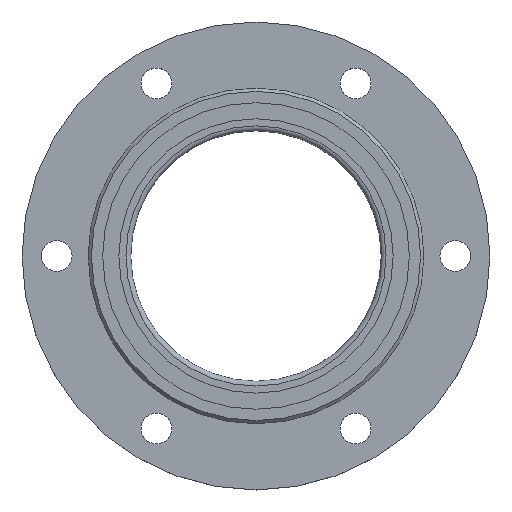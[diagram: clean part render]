
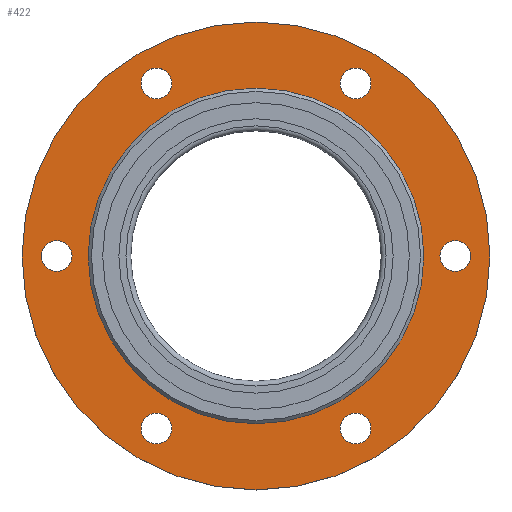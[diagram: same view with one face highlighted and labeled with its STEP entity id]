
A CAD part, top view. The second image highlights one B-rep face of the part: STEP entity #422.
In plain terms, the highlighted planar face has unit normal (0, 0, 1).
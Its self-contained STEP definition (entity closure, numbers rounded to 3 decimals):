
#22=FACE_BOUND('',#78,.T.);
#23=FACE_BOUND('',#79,.T.);
#24=FACE_BOUND('',#80,.T.);
#25=FACE_BOUND('',#81,.T.);
#26=FACE_BOUND('',#82,.T.);
#27=FACE_BOUND('',#83,.T.);
#28=FACE_BOUND('',#84,.T.);
#40=PLANE('',#490);
#54=FACE_OUTER_BOUND('',#77,.T.);
#77=EDGE_LOOP('',(#331,#332));
#78=EDGE_LOOP('',(#333,#334));
#79=EDGE_LOOP('',(#335,#336));
#80=EDGE_LOOP('',(#337,#338));
#81=EDGE_LOOP('',(#339,#340));
#82=EDGE_LOOP('',(#341,#342));
#83=EDGE_LOOP('',(#343,#344));
#84=EDGE_LOOP('',(#345,#346));
#139=CIRCLE('',#467,9.5);
#140=CIRCLE('',#468,9.5);
#142=CIRCLE('',#471,9.5);
#143=CIRCLE('',#472,9.5);
#145=CIRCLE('',#475,9.5);
#146=CIRCLE('',#476,9.5);
#148=CIRCLE('',#479,9.5);
#149=CIRCLE('',#480,9.5);
#151=CIRCLE('',#483,9.5);
#152=CIRCLE('',#484,9.5);
#154=CIRCLE('',#487,9.5);
#155=CIRCLE('',#488,9.5);
#157=CIRCLE('',#491,145.);
#158=CIRCLE('',#492,145.);
#159=CIRCLE('',#493,104.);
#160=CIRCLE('',#494,104.);
#186=VERTEX_POINT('',#698);
#187=VERTEX_POINT('',#699);
#189=VERTEX_POINT('',#706);
#190=VERTEX_POINT('',#707);
#192=VERTEX_POINT('',#714);
#193=VERTEX_POINT('',#715);
#195=VERTEX_POINT('',#722);
#196=VERTEX_POINT('',#723);
#198=VERTEX_POINT('',#730);
#199=VERTEX_POINT('',#731);
#201=VERTEX_POINT('',#738);
#202=VERTEX_POINT('',#739);
#204=VERTEX_POINT('',#746);
#205=VERTEX_POINT('',#747);
#206=VERTEX_POINT('',#750);
#207=VERTEX_POINT('',#751);
#233=EDGE_CURVE('',#186,#187,#139,.T.);
#234=EDGE_CURVE('',#187,#186,#140,.T.);
#237=EDGE_CURVE('',#189,#190,#142,.T.);
#238=EDGE_CURVE('',#190,#189,#143,.T.);
#241=EDGE_CURVE('',#192,#193,#145,.T.);
#242=EDGE_CURVE('',#193,#192,#146,.T.);
#245=EDGE_CURVE('',#195,#196,#148,.T.);
#246=EDGE_CURVE('',#196,#195,#149,.T.);
#249=EDGE_CURVE('',#198,#199,#151,.T.);
#250=EDGE_CURVE('',#199,#198,#152,.T.);
#253=EDGE_CURVE('',#201,#202,#154,.T.);
#254=EDGE_CURVE('',#202,#201,#155,.T.);
#257=EDGE_CURVE('',#204,#205,#157,.T.);
#258=EDGE_CURVE('',#205,#204,#158,.T.);
#259=EDGE_CURVE('',#206,#207,#159,.T.);
#260=EDGE_CURVE('',#207,#206,#160,.T.);
#331=ORIENTED_EDGE('',*,*,#257,.F.);
#332=ORIENTED_EDGE('',*,*,#258,.F.);
#333=ORIENTED_EDGE('',*,*,#233,.T.);
#334=ORIENTED_EDGE('',*,*,#234,.T.);
#335=ORIENTED_EDGE('',*,*,#237,.T.);
#336=ORIENTED_EDGE('',*,*,#238,.T.);
#337=ORIENTED_EDGE('',*,*,#241,.T.);
#338=ORIENTED_EDGE('',*,*,#242,.T.);
#339=ORIENTED_EDGE('',*,*,#245,.T.);
#340=ORIENTED_EDGE('',*,*,#246,.T.);
#341=ORIENTED_EDGE('',*,*,#249,.T.);
#342=ORIENTED_EDGE('',*,*,#250,.T.);
#343=ORIENTED_EDGE('',*,*,#253,.T.);
#344=ORIENTED_EDGE('',*,*,#254,.T.);
#345=ORIENTED_EDGE('',*,*,#259,.T.);
#346=ORIENTED_EDGE('',*,*,#260,.T.);
#422=ADVANCED_FACE('',(#54,#22,#23,#24,#25,#26,#27,#28),#40,.F.);
#467=AXIS2_PLACEMENT_3D('',#700,#553,#554);
#468=AXIS2_PLACEMENT_3D('',#701,#555,#556);
#471=AXIS2_PLACEMENT_3D('',#708,#562,#563);
#472=AXIS2_PLACEMENT_3D('',#709,#564,#565);
#475=AXIS2_PLACEMENT_3D('',#716,#571,#572);
#476=AXIS2_PLACEMENT_3D('',#717,#573,#574);
#479=AXIS2_PLACEMENT_3D('',#724,#580,#581);
#480=AXIS2_PLACEMENT_3D('',#725,#582,#583);
#483=AXIS2_PLACEMENT_3D('',#732,#589,#590);
#484=AXIS2_PLACEMENT_3D('',#733,#591,#592);
#487=AXIS2_PLACEMENT_3D('',#740,#598,#599);
#488=AXIS2_PLACEMENT_3D('',#741,#600,#601);
#490=AXIS2_PLACEMENT_3D('',#745,#605,#606);
#491=AXIS2_PLACEMENT_3D('',#748,#607,#608);
#492=AXIS2_PLACEMENT_3D('',#749,#609,#610);
#493=AXIS2_PLACEMENT_3D('',#752,#611,#612);
#494=AXIS2_PLACEMENT_3D('',#753,#613,#614);
#553=DIRECTION('center_axis',(0.,0.,-1.));
#554=DIRECTION('ref_axis',(0.5,-0.866,0.));
#555=DIRECTION('center_axis',(0.,0.,-1.));
#556=DIRECTION('ref_axis',(0.5,-0.866,0.));
#562=DIRECTION('center_axis',(0.,0.,-1.));
#563=DIRECTION('ref_axis',(-0.5,-0.866,0.));
#564=DIRECTION('center_axis',(0.,0.,-1.));
#565=DIRECTION('ref_axis',(-0.5,-0.866,0.));
#571=DIRECTION('center_axis',(0.,0.,-1.));
#572=DIRECTION('ref_axis',(-1.,0.,0.));
#573=DIRECTION('center_axis',(0.,0.,-1.));
#574=DIRECTION('ref_axis',(-1.,0.,0.));
#580=DIRECTION('center_axis',(0.,0.,-1.));
#581=DIRECTION('ref_axis',(-0.5,0.866,0.));
#582=DIRECTION('center_axis',(0.,0.,-1.));
#583=DIRECTION('ref_axis',(-0.5,0.866,0.));
#589=DIRECTION('center_axis',(0.,0.,-1.));
#590=DIRECTION('ref_axis',(0.5,0.866,0.));
#591=DIRECTION('center_axis',(0.,0.,-1.));
#592=DIRECTION('ref_axis',(0.5,0.866,0.));
#598=DIRECTION('center_axis',(0.,0.,-1.));
#599=DIRECTION('ref_axis',(1.,0.,0.));
#600=DIRECTION('center_axis',(0.,0.,-1.));
#601=DIRECTION('ref_axis',(1.,0.,0.));
#605=DIRECTION('center_axis',(0.,0.,-1.));
#606=DIRECTION('ref_axis',(-1.,0.,0.));
#607=DIRECTION('center_axis',(0.,0.,-1.));
#608=DIRECTION('ref_axis',(1.,0.,0.));
#609=DIRECTION('center_axis',(0.,0.,-1.));
#610=DIRECTION('ref_axis',(1.,0.,0.));
#611=DIRECTION('center_axis',(0.,0.,-1.));
#612=DIRECTION('ref_axis',(1.,0.,0.));
#613=DIRECTION('center_axis',(0.,0.,-1.));
#614=DIRECTION('ref_axis',(1.,0.,0.));
#698=CARTESIAN_POINT('',(66.5,98.727,-2.));
#699=CARTESIAN_POINT('',(57.,115.181,-2.));
#700=CARTESIAN_POINT('Origin',(61.75,106.954,-2.));
#701=CARTESIAN_POINT('Origin',(61.75,106.954,-2.));
#706=CARTESIAN_POINT('',(118.75,-8.227,-2.));
#707=CARTESIAN_POINT('',(128.25,8.227,-2.));
#708=CARTESIAN_POINT('Origin',(123.5,0.,-2.));
#709=CARTESIAN_POINT('Origin',(123.5,0.,-2.));
#714=CARTESIAN_POINT('',(52.25,-106.954,-2.));
#715=CARTESIAN_POINT('',(71.25,-106.954,-2.));
#716=CARTESIAN_POINT('Origin',(61.75,-106.954,-2.));
#717=CARTESIAN_POINT('Origin',(61.75,-106.954,-2.));
#722=CARTESIAN_POINT('',(-66.5,-98.727,-2.));
#723=CARTESIAN_POINT('',(-57.,-115.181,-2.));
#724=CARTESIAN_POINT('Origin',(-61.75,-106.954,-2.));
#725=CARTESIAN_POINT('Origin',(-61.75,-106.954,-2.));
#730=CARTESIAN_POINT('',(-118.75,8.227,-2.));
#731=CARTESIAN_POINT('',(-128.25,-8.227,-2.));
#732=CARTESIAN_POINT('Origin',(-123.5,0.,-2.));
#733=CARTESIAN_POINT('Origin',(-123.5,0.,-2.));
#738=CARTESIAN_POINT('',(-52.25,106.954,-2.));
#739=CARTESIAN_POINT('',(-71.25,106.954,-2.));
#740=CARTESIAN_POINT('Origin',(-61.75,106.954,-2.));
#741=CARTESIAN_POINT('Origin',(-61.75,106.954,-2.));
#745=CARTESIAN_POINT('Origin',(104.,0.,-2.));
#746=CARTESIAN_POINT('',(145.,0.,-2.));
#747=CARTESIAN_POINT('',(-145.,0.,-2.));
#748=CARTESIAN_POINT('Origin',(0.,0.,-2.));
#749=CARTESIAN_POINT('Origin',(0.,0.,-2.));
#750=CARTESIAN_POINT('',(104.,0.,-2.));
#751=CARTESIAN_POINT('',(-104.,0.,-2.));
#752=CARTESIAN_POINT('Origin',(0.,0.,-2.));
#753=CARTESIAN_POINT('Origin',(0.,0.,-2.));
